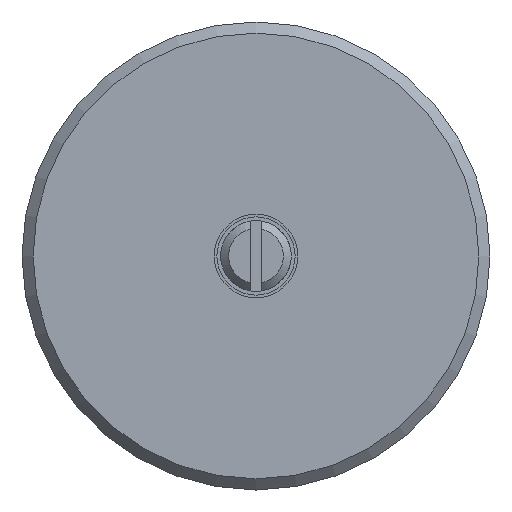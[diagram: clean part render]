
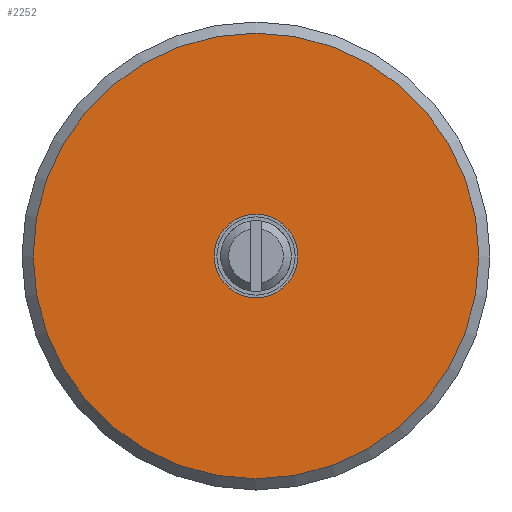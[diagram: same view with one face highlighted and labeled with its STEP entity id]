
A CAD part, left-side view. The second image highlights one B-rep face of the part: STEP entity #2252.
In plain terms, the highlighted planar face has unit normal (-1, 0, 0).
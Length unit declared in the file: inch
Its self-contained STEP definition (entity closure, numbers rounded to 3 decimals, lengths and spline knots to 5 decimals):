
#61=FACE_BOUND('',#474,.T.);
#178=CIRCLE('',#2437,0.14764);
#179=CIRCLE('',#2438,0.14764);
#182=CIRCLE('',#2443,0.7874);
#341=FACE_OUTER_BOUND('',#473,.T.);
#473=EDGE_LOOP('',(#1532));
#474=EDGE_LOOP('',(#1533,#1534));
#875=VERTEX_POINT('',#3498);
#876=VERTEX_POINT('',#3499);
#879=VERTEX_POINT('',#3510);
#1126=EDGE_CURVE('',#875,#876,#178,.T.);
#1127=EDGE_CURVE('',#876,#875,#179,.T.);
#1133=EDGE_CURVE('',#879,#879,#182,.T.);
#1532=ORIENTED_EDGE('',*,*,#1133,.F.);
#1533=ORIENTED_EDGE('',*,*,#1126,.T.);
#1534=ORIENTED_EDGE('',*,*,#1127,.T.);
#2048=PLANE('',#2447);
#2252=ADVANCED_FACE('',(#341,#61),#2048,.F.);
#2437=AXIS2_PLACEMENT_3D('',#3500,#2810,#2811);
#2438=AXIS2_PLACEMENT_3D('',#3501,#2812,#2813);
#2443=AXIS2_PLACEMENT_3D('',#3512,#2825,#2826);
#2447=AXIS2_PLACEMENT_3D('',#3519,#2834,#2835);
#2810=DIRECTION('center_axis',(1.,0.,0.));
#2811=DIRECTION('ref_axis',(0.,-1.,0.));
#2812=DIRECTION('center_axis',(1.,0.,0.));
#2813=DIRECTION('ref_axis',(0.,-1.,0.));
#2825=DIRECTION('center_axis',(1.,0.,0.));
#2826=DIRECTION('ref_axis',(0.,-1.,0.));
#2834=DIRECTION('center_axis',(1.,0.,0.));
#2835=DIRECTION('ref_axis',(0.,0.,1.));
#3498=CARTESIAN_POINT('',(-2.11235,-0.04634,-0.34434));
#3499=CARTESIAN_POINT('',(-2.11235,0.24894,-0.34434));
#3500=CARTESIAN_POINT('Origin',(-2.11235,0.1013,-0.34434));
#3501=CARTESIAN_POINT('Origin',(-2.11235,0.1013,-0.34434));
#3510=CARTESIAN_POINT('',(-2.11235,0.8887,-0.34434));
#3512=CARTESIAN_POINT('Origin',(-2.11235,0.1013,-0.34434));
#3519=CARTESIAN_POINT('Origin',(-2.11235,0.1013,-0.34434));
